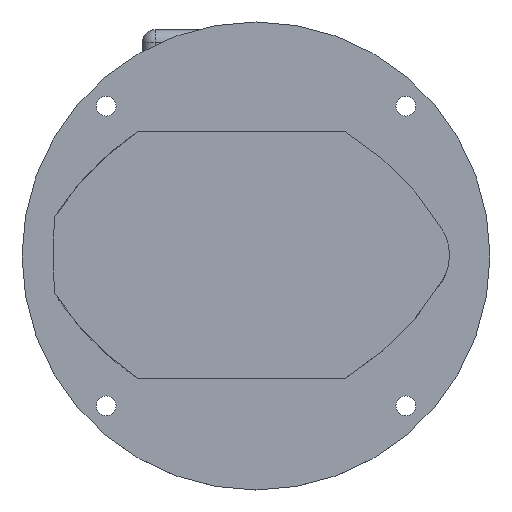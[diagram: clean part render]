
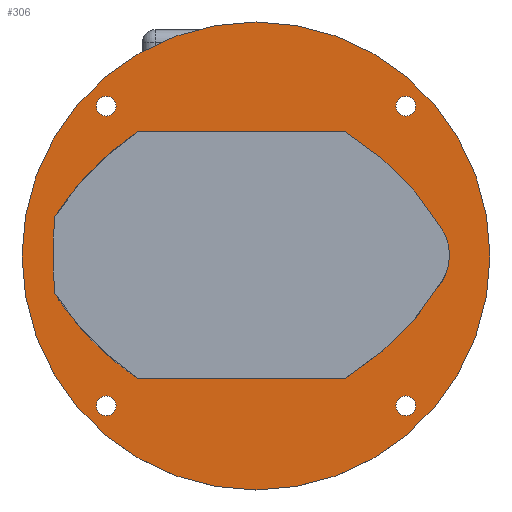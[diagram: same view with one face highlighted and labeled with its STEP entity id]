
A CAD part, top view. The second image highlights one B-rep face of the part: STEP entity #306.
In plain terms, the highlighted planar face has unit normal (0, 0, 1).
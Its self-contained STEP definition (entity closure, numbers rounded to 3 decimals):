
#306=ADVANCED_FACE('',(#1457,#1459,#1461,#1463,#1465,#1467,#1469,#1471),#1473,.T.);
#1457=FACE_BOUND('',#1458,.T.);
#1458=EDGE_LOOP('',(#2401));
#1459=FACE_BOUND('',#1460,.T.);
#1460=EDGE_LOOP('',(#2402));
#1461=FACE_BOUND('',#1462,.T.);
#1462=EDGE_LOOP('',(#2403));
#1463=FACE_BOUND('',#1464,.T.);
#1464=EDGE_LOOP('',(#2404));
#1465=FACE_BOUND('',#1466,.T.);
#1466=EDGE_LOOP('',(#2405));
#1467=FACE_BOUND('',#1468,.T.);
#1468=EDGE_LOOP('',(#2406));
#1469=FACE_BOUND('',#1470,.T.);
#1470=EDGE_LOOP('',(#2407,#2408,#2409,#2410,#2411,#2412,#2413,#2414));
#1471=FACE_BOUND('',#1472,.T.);
#1472=EDGE_LOOP('',(#2415));
#1473=PLANE('',#1474);
#1474=AXIS2_PLACEMENT_3D('',#1475,#1476,#1477);
#1475=CARTESIAN_POINT('',(0.,0.,216.));
#1476=DIRECTION('',(0.,0.,1.));
#1477=DIRECTION('',(1.,0.,0.));
#2401=ORIENTED_EDGE('',*,*,#2960,.T.);
#2402=ORIENTED_EDGE('',*,*,#2961,.T.);
#2403=ORIENTED_EDGE('',*,*,#2962,.T.);
#2404=ORIENTED_EDGE('',*,*,#2963,.T.);
#2405=ORIENTED_EDGE('',*,*,#2964,.T.);
#2406=ORIENTED_EDGE('',*,*,#2965,.F.);
#2407=ORIENTED_EDGE('',*,*,#2966,.F.);
#2408=ORIENTED_EDGE('',*,*,#2967,.F.);
#2409=ORIENTED_EDGE('',*,*,#2968,.F.);
#2410=ORIENTED_EDGE('',*,*,#2969,.F.);
#2411=ORIENTED_EDGE('',*,*,#2970,.F.);
#2412=ORIENTED_EDGE('',*,*,#2971,.F.);
#2413=ORIENTED_EDGE('',*,*,#2972,.F.);
#2414=ORIENTED_EDGE('',*,*,#2973,.F.);
#2415=ORIENTED_EDGE('',*,*,#2974,.F.);
#2960=EDGE_CURVE('',#3298,#3298,#3299,.T.);
#2961=EDGE_CURVE('',#3300,#3300,#3301,.T.);
#2962=EDGE_CURVE('',#3302,#3302,#3303,.T.);
#2963=EDGE_CURVE('',#3304,#3304,#3305,.T.);
#2964=EDGE_CURVE('',#3306,#3306,#3307,.T.);
#2965=EDGE_CURVE('',#3308,#3308,#3309,.T.);
#2966=EDGE_CURVE('',#3310,#3311,#3312,.T.);
#2967=EDGE_CURVE('',#3313,#3310,#3314,.T.);
#2968=EDGE_CURVE('',#3315,#3313,#3316,.T.);
#2969=EDGE_CURVE('',#3317,#3315,#3318,.T.);
#2970=EDGE_CURVE('',#3319,#3317,#3320,.T.);
#2971=EDGE_CURVE('',#3321,#3319,#3322,.T.);
#2972=EDGE_CURVE('',#3323,#3321,#3324,.T.);
#2973=EDGE_CURVE('',#3311,#3323,#3325,.T.);
#2974=EDGE_CURVE('',#3326,#3326,#3327,.T.);
#3298=VERTEX_POINT('',#3941);
#3299=CIRCLE('',#3942,95.);
#3300=VERTEX_POINT('',#3946);
#3301=CIRCLE('',#3947,4.);
#3302=VERTEX_POINT('',#3951);
#3303=CIRCLE('',#3952,4.);
#3304=VERTEX_POINT('',#3956);
#3305=CIRCLE('',#3957,4.);
#3306=VERTEX_POINT('',#3961);
#3307=CIRCLE('',#3962,4.);
#3308=VERTEX_POINT('',#3966);
#3309=CIRCLE('',#3967,10.);
#3310=VERTEX_POINT('',#3971);
#3311=VERTEX_POINT('',#3972);
#3312=LINE('',#3973,#3974);
#3313=VERTEX_POINT('',#3976);
#3314=LINE('',#3977,#3978);
#3315=VERTEX_POINT('',#3980);
#3316=LINE('',#3981,#3982);
#3317=VERTEX_POINT('',#3984);
#3318=LINE('',#3985,#3986);
#3319=VERTEX_POINT('',#3988);
#3320=LINE('',#3989,#3990);
#3321=VERTEX_POINT('',#3992);
#3322=LINE('',#3993,#3994);
#3323=VERTEX_POINT('',#3996);
#3324=LINE('',#3997,#3998);
#3325=LINE('',#4000,#4001);
#3326=VERTEX_POINT('',#4003);
#3327=CIRCLE('',#4004,20.);
#3941=CARTESIAN_POINT('',(120.,0.,216.));
#3942=AXIS2_PLACEMENT_3D('',#3943,#3944,#3945);
#3943=CARTESIAN_POINT('',(25.,0.,216.));
#3944=DIRECTION('',(0.,0.,1.));
#3945=DIRECTION('',(1.,0.,0.));
#3946=CARTESIAN_POINT('',(81.811,60.811,216.));
#3947=AXIS2_PLACEMENT_3D('',#3948,#3949,#3950);
#3948=CARTESIAN_POINT('',(85.811,60.811,216.));
#3949=DIRECTION('',(-0.,-0.,-1.));
#3950=DIRECTION('',(-1.,0.,0.));
#3951=CARTESIAN_POINT('',(-39.811,60.811,216.));
#3952=AXIS2_PLACEMENT_3D('',#3953,#3954,#3955);
#3953=CARTESIAN_POINT('',(-35.811,60.811,216.));
#3954=DIRECTION('',(-0.,-0.,-1.));
#3955=DIRECTION('',(-1.,0.,0.));
#3956=CARTESIAN_POINT('',(-39.811,-60.811,216.));
#3957=AXIS2_PLACEMENT_3D('',#3958,#3959,#3960);
#3958=CARTESIAN_POINT('',(-35.811,-60.811,216.));
#3959=DIRECTION('',(-0.,-0.,-1.));
#3960=DIRECTION('',(-1.,0.,0.));
#3961=CARTESIAN_POINT('',(81.811,-60.811,216.));
#3962=AXIS2_PLACEMENT_3D('',#3963,#3964,#3965);
#3963=CARTESIAN_POINT('',(85.811,-60.811,216.));
#3964=DIRECTION('',(-0.,-0.,-1.));
#3965=DIRECTION('',(-1.,0.,0.));
#3966=CARTESIAN_POINT('',(10.,0.,216.));
#3967=AXIS2_PLACEMENT_3D('',#3968,#3969,#3970);
#3968=CARTESIAN_POINT('',(0.,0.,216.));
#3969=DIRECTION('',(0.,0.,1.));
#3970=DIRECTION('',(1.,0.,0.));
#3971=CARTESIAN_POINT('',(-50.,18.,216.));
#3972=CARTESIAN_POINT('',(-55.,18.,216.));
#3973=CARTESIAN_POINT('',(-50.,18.,216.));
#3974=VECTOR('',#3975,1.);
#3975=DIRECTION('',(-1.,0.,0.));
#3976=CARTESIAN_POINT('',(-50.,2.5,216.));
#3977=CARTESIAN_POINT('',(-50.,2.5,216.));
#3978=VECTOR('',#3979,1.);
#3979=DIRECTION('',(0.,1.,0.));
#3980=CARTESIAN_POINT('',(-34.,2.5,216.));
#3981=CARTESIAN_POINT('',(-34.,2.5,216.));
#3982=VECTOR('',#3983,1.);
#3983=DIRECTION('',(-1.,0.,0.));
#3984=CARTESIAN_POINT('',(-34.,-2.5,216.));
#3985=CARTESIAN_POINT('',(-34.,-2.5,216.));
#3986=VECTOR('',#3987,1.);
#3987=DIRECTION('',(0.,1.,0.));
#3988=CARTESIAN_POINT('',(-50.,-2.5,216.));
#3989=CARTESIAN_POINT('',(-50.,-2.5,216.));
#3990=VECTOR('',#3991,1.);
#3991=DIRECTION('',(1.,0.,0.));
#3992=CARTESIAN_POINT('',(-50.,-18.,216.));
#3993=CARTESIAN_POINT('',(-50.,-18.,216.));
#3994=VECTOR('',#3995,1.);
#3995=DIRECTION('',(0.,1.,0.));
#3996=CARTESIAN_POINT('',(-55.,-18.,216.));
#3997=CARTESIAN_POINT('',(-55.,-18.,216.));
#3998=VECTOR('',#3999,1.);
#3999=DIRECTION('',(1.,0.,0.));
#4000=CARTESIAN_POINT('',(-55.,18.,216.));
#4001=VECTOR('',#4002,1.);
#4002=DIRECTION('',(0.,-1.,0.));
#4003=CARTESIAN_POINT('',(103.5,0.,216.));
#4004=AXIS2_PLACEMENT_3D('',#4005,#4006,#4007);
#4005=CARTESIAN_POINT('',(83.5,0.,216.));
#4006=DIRECTION('',(0.,0.,1.));
#4007=DIRECTION('',(1.,0.,0.));
